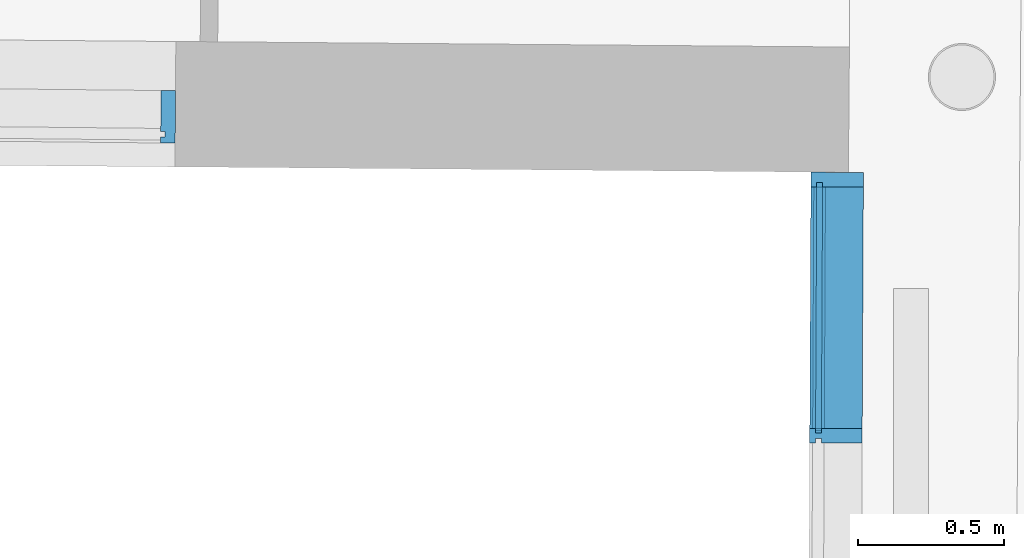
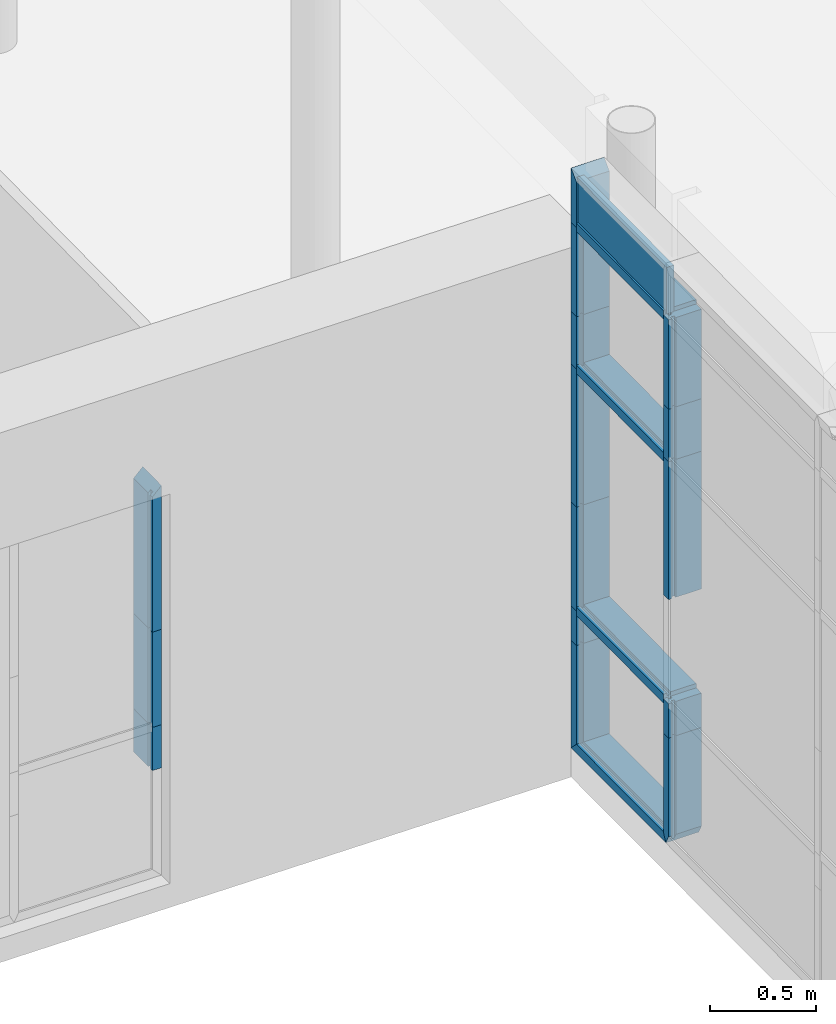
# One storey, part 170 of 196: 20 building element parts, 2 elements without a shape of their own.
"""IFC2X3 building model written with IfcOpenShell, lengths in metres."""

import ifcopenshell
import ifcopenshell.guid

model = None  # the IFC model being written
_history = None  # IfcOwnerHistory: only IFC2X3 demands one
_inside = {}  # id of a spatial element -> (the spatial element, [elements in it])
_under = {}  # id of a project, library or spatial element -> (it, [spatial elements below it])
_declared = {}  # id of a project -> (the project, [libraries it declares])
_typed = {}  # id of a type object -> (the type object, [elements of that type])
_made_of = {}  # id of a material, layer set ... -> (it, [elements and type objects made of it])


def new_model(schema):
    """Start an empty IFC model of exactly this schema.

    Asked for "IFC4X3", IfcOpenShell would pick the latest addendum, in which some entities
    have other attributes; the version numbers below select the first issue.
    IFC2X3 requires an IfcOwnerHistory on every rooted entity: one is made here for all.
    """
    global model, _history
    if schema == "IFC4X3":
        model = ifcopenshell.file(schema_version=(4, 3, 0, 0))
    else:
        model = ifcopenshell.file(schema=schema)
    _inside.clear()
    _under.clear()
    _declared.clear()
    _typed.clear()
    _made_of.clear()
    _history = None
    if model.schema == "IFC2X3":
        org = make("IfcOrganization", Name="unknown")
        user = make(
            "IfcPersonAndOrganization",
            ThePerson=make("IfcPerson", FamilyName="unknown"),
            TheOrganization=org,
        )
        app = make(
            "IfcApplication",
            ApplicationDeveloper=org,
            Version="unknown",
            ApplicationFullName="unknown",
            ApplicationIdentifier="unknown",
        )
        _history = make(
            "IfcOwnerHistory",
            OwningUser=user,
            OwningApplication=app,
            ChangeAction="ADDED",
            CreationDate=0,
        )
    return model


def make(cls, **values):
    """One entity of the class cls with the attributes given. An attribute that is None is left unset."""
    return model.create_entity(
        cls, **{name: value for name, value in values.items() if value is not None}
    )


def entity(cls, *values):
    """Any entity or typed value of the class cls, its attributes in the order of the schema. None: left unset."""
    e = model.create_entity(cls)
    for i, value in enumerate(values):
        if value is not None:
            e[i] = value
    return e


def rooted(cls, **values):
    """An entity with a GlobalId (a new one), such as an element, a storey or a relation."""
    return make(cls, GlobalId=ifcopenshell.guid.new(), OwnerHistory=_history, **values)


def si_unit(unit_type, name, prefix=None):
    """IfcSIUnit, for example si_unit("LENGTHUNIT", "METRE", prefix="MILLI")."""
    return make("IfcSIUnit", UnitType=unit_type, Prefix=prefix, Name=name)


def converted_unit(unit_type, name, factor, base, dimensions=None, offset=None):
    """IfcConversionBasedUnit, such as the inch: factor (a typed value) times the base unit."""
    return make(
        "IfcConversionBasedUnit"
        if offset is None
        else "IfcConversionBasedUnitWithOffset",
        ConversionOffset=offset,
        Dimensions=None
        if dimensions is None
        else entity("IfcDimensionalExponents", *dimensions),
        UnitType=unit_type,
        Name=name,
        ConversionFactor=make(
            "IfcMeasureWithUnit", ValueComponent=factor, UnitComponent=base
        ),
    )


def derived_unit(unit_type, elements):
    """IfcDerivedUnit: a product of units, each with its exponent."""
    return make(
        "IfcDerivedUnit",
        Elements=[
            make("IfcDerivedUnitElement", Unit=unit, Exponent=power)
            for unit, power in elements
        ],
        UnitType=unit_type,
    )


def money_unit(currency):
    """IfcMonetaryUnit."""
    return make("IfcMonetaryUnit", Currency=currency)


def assignment(units):
    """IfcUnitAssignment: the units of a project."""
    return None if units is None else make("IfcUnitAssignment", Units=units)


def point(xyz):
    """IfcCartesianPoint."""
    return None if xyz is None else make("IfcCartesianPoint", Coordinates=xyz)


def direction(xyz):
    """IfcDirection."""
    return None if xyz is None else make("IfcDirection", DirectionRatios=xyz)


def frame(location, z_axis=None, x_axis=None):
    """IfcAxis2Placement3D, a coordinate frame: its origin and axes. An axis left out is left unset."""
    return make(
        "IfcAxis2Placement3D",
        Location=point(location),
        Axis=direction(z_axis),
        RefDirection=direction(x_axis),
    )


def origin_with_axes():
    """The frame at (0, 0, 0) with the z axis (0, 0, 1) and the x axis (1, 0, 0) written out."""
    return frame((0.0, 0.0, 0.0), z_axis=(0.0, 0.0, 1.0), x_axis=(1.0, 0.0, 0.0))


def place(relative_to, where):
    """IfcLocalPlacement: puts the frame where relative to a parent placement (None: the world)."""
    return make(
        "IfcLocalPlacement", PlacementRelTo=relative_to, RelativePlacement=where
    )


def context(
    kind, dimensions, precision=None, world=None, true_north=None, identifier=None
):
    """IfcGeometricRepresentationContext, for example the 3D "Model" context."""
    return make(
        "IfcGeometricRepresentationContext",
        ContextIdentifier=identifier,
        ContextType=kind,
        CoordinateSpaceDimension=dimensions,
        Precision=precision,
        WorldCoordinateSystem=world,
        TrueNorth=true_north,
    )


def subcontext(parent, identifier, kind, view, scale=None):
    """IfcGeometricRepresentationSubContext, for example "Body" below "Model"."""
    return make(
        "IfcGeometricRepresentationSubContext",
        ContextIdentifier=identifier,
        ContextType=kind,
        ParentContext=parent,
        TargetScale=scale,
        TargetView=view,
    )


def project(units=None, contexts=None):
    """IfcProject with its units and contexts."""
    return rooted(
        "IfcProject",
        Name="project",
        RepresentationContexts=contexts,
        UnitsInContext=assignment(units),
    )


def spatial(cls, under=None, at=None, **own):
    """A site, building, storey or space (cls), placed at a placement, below another one or the project."""
    s = rooted(cls, ObjectPlacement=at, **own)
    if under is not None:
        _under.setdefault(under.id(), (under, []))[1].append(s)
    return s


def faces_of(points, faces, orient=None, outer=None):
    """IfcFace entities. A face is a list of loops; a loop is a list of indices into points, from 0.

    orient and outer hold one flag for each loop. By default every Orientation is true, the
    first loop of a face is its IfcFaceOuterBound and the others are IfcFaceBound.
    """
    made = []
    for i, loops in enumerate(faces):
        bounds = []
        for j, loop in enumerate(loops):
            is_outer = j == 0 if outer is None else outer[i][j]
            bounds.append(
                make(
                    "IfcFaceOuterBound" if is_outer else "IfcFaceBound",
                    Bound=make("IfcPolyLoop", Polygon=[points[k] for k in loop]),
                    Orientation=True if orient is None else orient[i][j],
                )
            )
        made.append(make("IfcFace", Bounds=bounds))
    return made


def faceted_brep(points, faces, orient=None, outer=None, voids=None):
    """IfcFacetedBrep: a solid bounded by flat faces; with voids (closed shells), ...WithVoids."""
    shared = [point(p) for p in points]
    hull = make("IfcClosedShell", CfsFaces=faces_of(shared, faces, orient, outer))
    if voids is None:
        return make("IfcFacetedBrep", Outer=hull)
    return make(
        "IfcFacetedBrepWithVoids",
        Outer=hull,
        Voids=[
            make(cls, CfsFaces=faces_of(shared, fs, o, b)) for cls, fs, o, b in voids
        ],
    )


def shape(context_of_items, identifier, shape_type, items):
    """IfcShapeRepresentation: the items that make up one representation, for example the "Body"."""
    return make(
        "IfcShapeRepresentation",
        ContextOfItems=context_of_items,
        RepresentationIdentifier=identifier,
        RepresentationType=shape_type,
        Items=items,
    )


def material(Name=None, Category=None):
    """IfcMaterial."""
    return make("IfcMaterial", Name=Name, Category=Category)


def made_of(thing, what):
    """Note that an element or type object is made of a material, layer set ...; save() writes the relation."""
    if what is not None:
        _made_of.setdefault(what.id(), (what, []))[1].append(thing)
    return thing


def type_object(cls, material=None, **own):
    """A type object (cls), such as IfcWallType, which elements share."""
    return made_of(rooted(cls, **own), material)


def element(
    cls,
    number,
    at=None,
    inside=None,
    cuts=None,
    type_object=None,
    material=None,
    context=None,
    identifier="Body",
    shape_type=None,
    held_by="IfcProductDefinitionShape",
    body=None,
    shapes=None,
    **own,
):
    """One element of the class cls, such as IfcWall. Its Tag is "e" and its number.

    at: its placement. inside: the storey or other place that contains it. cuts: it is an
    opening in that element (IfcRelVoidsElement). A single representation is given by context,
    identifier, shape_type and body (its items); several are given by shapes. held_by: the class
    of the entity that holds the representations. save() writes the other relations.
    """
    e = rooted(cls, Tag="e%d" % number, ObjectPlacement=at, **own)
    if body is not None:
        shapes = [shape(context, identifier, shape_type, body)]
    if shapes is not None:
        e.Representation = make(held_by, Representations=shapes)
    if inside is not None:
        _inside.setdefault(inside.id(), (inside, []))[1].append(e)
    if cuts is not None:
        rooted(
            "IfcRelVoidsElement", RelatingBuildingElement=cuts, RelatedOpeningElement=e
        )
    if type_object is not None:
        _typed.setdefault(type_object.id(), (type_object, []))[1].append(e)
    return made_of(e, material)


def aggregate(whole, parts):
    """IfcRelAggregates: a whole, such as a stair, and the parts it consists of."""
    return rooted("IfcRelAggregates", RelatingObject=whole, RelatedObjects=parts)


def save(model, path):
    """Write the relations noted so far, then the file.

    IfcRelAggregates (storeys below a building ...), IfcRelContainedInSpatialStructure (elements
    in a storey), IfcRelDefinesByType, IfcRelAssociatesMaterial and IfcRelDeclares: one each for
    every whole, place, type object, material and project.
    """
    for whole, parts in _under.values():
        aggregate(whole, parts)
    for where, things in _inside.values():
        rooted(
            "IfcRelContainedInSpatialStructure",
            RelatedElements=things,
            RelatingStructure=where,
        )
    for kind, things in _typed.values():
        rooted("IfcRelDefinesByType", RelatedObjects=things, RelatingType=kind)
    for what, things in _made_of.values():
        rooted("IfcRelAssociatesMaterial", RelatedObjects=things, RelatingMaterial=what)
    for by, libraries in _declared.values():
        rooted("IfcRelDeclares", RelatingContext=by, RelatedDefinitions=libraries)
    model.write(path)


model = new_model("IFC2X3")

# Units and contexts
model_context = context("Model", 3, precision=1e-05, world=origin_with_axes(), true_north=direction((0.0, 1.0)))
body_context = subcontext(model_context, "Body", "Model", "MODEL_VIEW")
ifc_project = project(units=[si_unit("LENGTHUNIT", "METRE"), si_unit("AREAUNIT", "SQUARE_METRE"), si_unit("VOLUMEUNIT", "CUBIC_METRE"), converted_unit("PLANEANGLEUNIT", "DEGREE", entity("IfcPlaneAngleMeasure", 0.0174532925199), si_unit("PLANEANGLEUNIT", "RADIAN"), dimensions=[0, 0, 0, 0, 0, 0, 0]), money_unit("EUR"), converted_unit("TIMEUNIT", "Year", entity("IfcTimeMeasure", 31556926.0), si_unit("TIMEUNIT", "SECOND"), dimensions=[0, 0, 1, 0, 0, 0, 0]), si_unit("MASSUNIT", "GRAM", prefix="KILO"), si_unit("THERMODYNAMICTEMPERATUREUNIT", "DEGREE_CELSIUS"), si_unit("LUMINOUSINTENSITYUNIT", "LUMEN"), si_unit("ENERGYUNIT", "JOULE", prefix="MEGA"), derived_unit("THERMALCONDUCTANCEUNIT", [(si_unit("POWERUNIT", "WATT"), 1), (si_unit("LENGTHUNIT", "METRE"), -1), (si_unit("THERMODYNAMICTEMPERATUREUNIT", "KELVIN"), -1)]), derived_unit("SPECIFICHEATCAPACITYUNIT", [(si_unit("ENERGYUNIT", "JOULE"), 1), (si_unit("MASSUNIT", "GRAM", prefix="KILO"), -1), (si_unit("THERMODYNAMICTEMPERATUREUNIT", "KELVIN"), -1)]), derived_unit("MASSDENSITYUNIT", [(si_unit("MASSUNIT", "GRAM", prefix="KILO"), 1), (si_unit("VOLUMEUNIT", "CUBIC_METRE"), -1)])], contexts=[model_context])

# Site, building, storey
site_placement = place(None, origin_with_axes())
site = spatial("IfcSite", under=ifc_project, at=site_placement, Name="Gelände", CompositionType="ELEMENT")
building_placement = place(site_placement, origin_with_axes())
building = spatial("IfcBuilding", under=site, at=building_placement, Name="Gebäude", CompositionType="ELEMENT")
storey_placement = place(building_placement, frame((0.0, 0.0, -3.0), z_axis=(0.0, 0.0, 1.0), x_axis=(1.0, 0.0, 0.0)))
storey = spatial("IfcBuildingStorey", under=building, at=storey_placement, Name="KELLERGESCHOSS", CompositionType="ELEMENT", Elevation=-3.0)

# Proxy, building element parts
building_element_proxy_type = type_object("IfcBuildingElementProxyType", Name="Fassadentyp", PredefinedType="NOTDEFINED")
proxy_1_placement = place(storey_placement, frame((-5.58247621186, 39.1627608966, 0.57767685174), z_axis=(0.0, 0.0, 1.0), x_axis=(1.0, 0.0, 0.0)))
proxy_1 = element("IfcBuildingElementProxy", 1, at=proxy_1_placement, inside=storey, type_object=building_element_proxy_type, Name="Fassade-002")
ifc_material_1 = material(Name="53_Metall, Aluminium")
building_element_part_1_placement = place(proxy_1_placement, origin_with_axes())
building_element_part_1 = element("IfcBuildingElementPart", 2, at=building_element_part_1_placement, material=ifc_material_1, Name="53_Metall, Aluminium", context=body_context, shape_type="Brep", body=[
    faceted_brep([(2.39099130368, -0.0149234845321, 0.869344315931), (2.3907828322, -0.0349223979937, 0.869344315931), (2.37578364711, -0.03476604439, 0.869344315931), (2.37557517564, -0.0547649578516, 0.869344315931), (2.42557245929, -0.0552861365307, 0.869344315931), (2.42744870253, 0.124704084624, 0.869344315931), (2.37745141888, 0.125225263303, 0.869344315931), (2.37599211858, -0.0147671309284, 0.869344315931), (2.39099130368, -0.0149234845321, 0.619999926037), (2.3907828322, -0.0349223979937, 0.619999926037), (2.37578364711, -0.03476604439, 0.619999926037), (2.37557517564, -0.0547649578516, 0.619999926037), (2.42557245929, -0.0552861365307, 0.619999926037), (2.42744870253, 0.124704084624, 0.619999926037), (2.37745141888, 0.125225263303, 0.619999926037), (2.37599211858, -0.0147671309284, 0.619999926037)], [[[0, 1, 2, 3, 4, 5, 6, 7]], [[1, 0, 8, 9]], [[10, 2, 1, 9]], [[2, 10, 11, 3]], [[12, 4, 3, 11]], [[13, 5, 4, 12]], [[14, 6, 5, 13]], [[15, 7, 6, 14]], [[0, 7, 15, 8]], [[8, 15, 14, 13, 12, 11, 10, 9]]]),
])
building_element_part_2_placement = place(proxy_1_placement, origin_with_axes())
building_element_part_2 = element("IfcBuildingElementPart", 3, at=building_element_part_2_placement, material=ifc_material_1, Name="53_Metall, Aluminium", context=body_context, shape_type="Brep", body=[
    faceted_brep([(2.39099130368, -0.0149234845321, 1.41999992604), (2.3907828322, -0.0349223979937, 1.41999992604), (2.37578364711, -0.03476604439, 1.41999992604), (2.37557517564, -0.0547649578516, 1.41999992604), (2.42557245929, -0.0552861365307, 1.41999992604), (2.42744870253, 0.124704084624, 1.41999992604), (2.37745141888, 0.125225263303, 1.41999992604), (2.37599211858, -0.0147671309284, 1.41999992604), (2.39099130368, -0.0149234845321, 0.869344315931), (2.3907828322, -0.0349223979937, 0.869344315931), (2.37578364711, -0.03476604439, 0.869344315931), (2.37557517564, -0.0547649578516, 0.869344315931), (2.42557245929, -0.0552861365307, 0.869344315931), (2.42744870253, 0.124704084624, 0.869344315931), (2.37745141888, 0.125225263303, 0.869344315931), (2.37599211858, -0.0147671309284, 0.869344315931)], [[[0, 1, 2, 3, 4, 5, 6, 7]], [[1, 0, 8, 9]], [[10, 2, 1, 9]], [[2, 10, 11, 3]], [[12, 4, 3, 11]], [[13, 5, 4, 12]], [[14, 6, 5, 13]], [[15, 7, 6, 14]], [[0, 7, 15, 8]], [[8, 15, 14, 13, 12, 11, 10, 9]]]),
])
building_element_part_3_placement = place(proxy_1_placement, origin_with_axes())
building_element_part_3 = element("IfcBuildingElementPart", 4, at=building_element_part_3_placement, material=ifc_material_1, Name="53_Metall, Aluminium", context=body_context, shape_type="Brep", body=[
    faceted_brep([(2.39099130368, -0.0149234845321, 2.21581791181), (2.3907828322, -0.0349223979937, 2.21581791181), (2.37578364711, -0.03476604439, 2.20081791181), (2.37557517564, -0.0547649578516, 2.20081791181), (2.42557245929, -0.0552861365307, 2.25081791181), (2.42744870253, 0.124704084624, 2.25081791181), (2.37745141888, 0.125225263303, 2.20081791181), (2.37599211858, -0.0147671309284, 2.20081791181), (2.39099130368, -0.0149234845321, 1.41999992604), (2.3907828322, -0.0349223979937, 1.41999992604), (2.37578364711, -0.03476604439, 1.41999992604), (2.37557517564, -0.0547649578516, 1.41999992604), (2.42557245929, -0.0552861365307, 1.41999992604), (2.42744870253, 0.124704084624, 1.41999992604), (2.37745141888, 0.125225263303, 1.41999992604), (2.37599211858, -0.0147671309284, 1.41999992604)], [[[0, 1, 2, 3, 4, 5, 6, 7]], [[1, 0, 8, 9]], [[10, 2, 1, 9]], [[2, 10, 11, 3]], [[12, 4, 3, 11]], [[13, 5, 4, 12]], [[14, 6, 5, 13]], [[15, 7, 6, 14]], [[0, 7, 15, 8]], [[8, 15, 14, 13, 12, 11, 10, 9]]]),
])
aggregate(proxy_1, [building_element_part_1, building_element_part_2, building_element_part_3])

proxy_2_placement = place(storey_placement, frame((-0.953000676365, 37.3811147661, 0.610000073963), z_axis=(0.0, 0.0, 1.0), x_axis=(1.0, 0.0, 0.0)))
proxy_2 = element("IfcBuildingElementProxy", 5, at=proxy_2_placement, inside=storey, type_object=building_element_proxy_type, Name="Fassade-002")
ifc_material_2 = material(Name="45_Glas, Normalglas")
building_element_part_4_placement = place(proxy_2_placement, origin_with_axes())
building_element_part_4 = element("IfcBuildingElementPart", 6, at=building_element_part_4_placement, material=ifc_material_2, Name="45_Glas, Normalglas", context=body_context, shape_type="Brep", body=[
    faceted_brep([(0.0235365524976, 0.732357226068, 3.31500000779), (0.0276849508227, 1.59147349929, 3.31500000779), (-0.0123145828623, 1.59166664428, 3.31500000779), (-0.0164629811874, 0.732550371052, 3.31500000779), (0.0235365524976, 0.732357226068, 3.046495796), (0.0276849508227, 1.59147349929, 3.046495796), (-0.0123145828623, 1.59166664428, 3.046495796), (-0.0164629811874, 0.732550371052, 3.046495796)], [[[0, 1, 2, 3]], [[0, 4, 5, 1]], [[1, 5, 6, 2]], [[3, 2, 6, 7]], [[4, 0, 3, 7]], [[5, 4, 7, 6]]]),
])
building_element_part_5_placement = place(proxy_2_placement, origin_with_axes())
building_element_part_5 = element("IfcBuildingElementPart", 7, at=building_element_part_5_placement, material=ifc_material_1, Name="53_Metall, Aluminium", context=body_context, shape_type="Brep", body=[
    faceted_brep([(0.0176850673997, 1.59152178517, 0.619999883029), (0.0176126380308, 1.57652196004, 0.619999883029), (0.157611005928, 1.5758459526, 0.619999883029), (0.157852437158, 1.6258453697, 0.619999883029), (-0.0221454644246, 1.62671452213, 0.619999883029), (-0.0223868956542, 1.57671510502, 0.619999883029), (-0.00238712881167, 1.57661853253, 0.619999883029), (-0.00231469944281, 1.59161835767, 0.619999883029), (0.0176850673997, 1.59152178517, 0.0349999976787), (0.0176126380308, 1.57652196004, 0.0499999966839), (0.157611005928, 1.5758459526, 0.0499999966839), (0.157852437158, 1.6258453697, 0.0), (-0.0221454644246, 1.62671452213, 0.0), (-0.0223868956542, 1.57671510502, 0.0499999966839), (-0.00238712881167, 1.57661853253, 0.0499999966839), (-0.00231469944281, 1.59161835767, 0.0349999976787)], [[[0, 1, 2, 3, 4, 5, 6, 7]], [[0, 8, 9, 1]], [[9, 10, 2, 1]], [[2, 10, 11, 3]], [[3, 11, 12, 4]], [[4, 12, 13, 5]], [[6, 5, 13, 14]], [[14, 15, 7, 6]], [[7, 15, 8, 0]], [[8, 15, 14, 13, 12, 11, 10, 9]]]),
])
building_element_part_6_placement = place(proxy_2_placement, origin_with_axes())
building_element_part_6 = element("IfcBuildingElementPart", 8, at=building_element_part_6_placement, material=ifc_material_1, Name="53_Metall, Aluminium", context=body_context, shape_type="Brep", body=[
    faceted_brep([(0.0176850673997, 1.59152178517, 1.41999994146), (0.0176126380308, 1.57652196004, 1.41999994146), (0.157611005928, 1.5758459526, 1.41999994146), (0.157852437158, 1.6258453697, 1.41999994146), (-0.0221454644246, 1.62671452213, 1.41999994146), (-0.0223868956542, 1.57671510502, 1.41999994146), (-0.00238712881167, 1.57661853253, 1.41999994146), (-0.00231469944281, 1.59161835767, 1.41999994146), (0.0176850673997, 1.59152178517, 0.818463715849), (0.0176126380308, 1.57652196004, 0.818463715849), (0.157611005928, 1.5758459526, 0.818463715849), (0.157852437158, 1.6258453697, 0.818463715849), (-0.0221454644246, 1.62671452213, 0.818463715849), (-0.0223868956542, 1.57671510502, 0.818463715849), (-0.00238712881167, 1.57661853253, 0.818463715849), (-0.00231469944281, 1.59161835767, 0.818463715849)], [[[0, 1, 2, 3, 4, 5, 6, 7]], [[0, 8, 9, 1]], [[9, 10, 2, 1]], [[10, 11, 3, 2]], [[11, 12, 4, 3]], [[12, 13, 5, 4]], [[6, 5, 13, 14]], [[14, 15, 7, 6]], [[7, 15, 8, 0]], [[8, 15, 14, 13, 12, 11, 10, 9]]]),
])
building_element_part_7_placement = place(proxy_2_placement, origin_with_axes())
building_element_part_7 = element("IfcBuildingElementPart", 9, at=building_element_part_7_placement, material=ifc_material_1, Name="53_Metall, Aluminium", context=body_context, shape_type="Brep", body=[
    faceted_brep([(0.0176850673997, 1.59152178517, 2.5199999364), (0.0176126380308, 1.57652196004, 2.5199999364), (0.157611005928, 1.5758459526, 2.5199999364), (0.157852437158, 1.6258453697, 2.5199999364), (-0.0221454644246, 1.62671452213, 2.5199999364), (-0.0223868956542, 1.57671510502, 2.5199999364), (-0.00238712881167, 1.57661853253, 2.5199999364), (-0.00231469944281, 1.59161835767, 2.5199999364), (0.0176850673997, 1.59152178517, 2.2164877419), (0.0176126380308, 1.57652196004, 2.2164877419), (0.157611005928, 1.5758459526, 2.2164877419), (0.157852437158, 1.6258453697, 2.2164877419), (-0.0221454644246, 1.62671452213, 2.2164877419), (-0.0223868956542, 1.57671510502, 2.2164877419), (-0.00238712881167, 1.57661853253, 2.2164877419), (-0.00231469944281, 1.59161835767, 2.2164877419)], [[[0, 1, 2, 3, 4, 5, 6, 7]], [[0, 8, 9, 1]], [[9, 10, 2, 1]], [[10, 11, 3, 2]], [[11, 12, 4, 3]], [[12, 13, 5, 4]], [[6, 5, 13, 14]], [[14, 15, 7, 6]], [[7, 15, 8, 0]], [[8, 15, 14, 13, 12, 11, 10, 9]]]),
])
building_element_part_8_placement = place(proxy_2_placement, origin_with_axes())
building_element_part_8 = element("IfcBuildingElementPart", 10, at=building_element_part_8_placement, material=ifc_material_1, Name="53_Metall, Aluminium", context=body_context, shape_type="Brep", body=[
    faceted_brep([(0.0176850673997, 1.59152178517, 3.31499997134), (0.0176126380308, 1.57652196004, 3.29999997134), (0.157611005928, 1.5758459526, 3.29999997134), (0.157852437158, 1.6258453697, 3.34999997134), (-0.0221454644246, 1.62671452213, 3.34999997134), (-0.0223868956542, 1.57671510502, 3.29999997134), (-0.00238712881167, 1.57661853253, 3.29999997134), (-0.00231469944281, 1.59161835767, 3.31499997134), (0.0176850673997, 1.59152178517, 3.03649579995), (0.0176126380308, 1.57652196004, 3.03649579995), (0.157611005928, 1.5758459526, 3.03649579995), (0.157852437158, 1.6258453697, 3.03649579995), (-0.0221454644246, 1.62671452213, 3.03649579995), (-0.0223868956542, 1.57671510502, 3.03649579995), (-0.00238712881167, 1.57661853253, 3.03649579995), (-0.00231469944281, 1.59161835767, 3.03649579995)], [[[0, 1, 2, 3, 4, 5, 6, 7]], [[0, 8, 9, 1]], [[9, 10, 2, 1]], [[10, 11, 3, 2]], [[11, 12, 4, 3]], [[12, 13, 5, 4]], [[6, 5, 13, 14]], [[14, 15, 7, 6]], [[7, 15, 8, 0]], [[8, 15, 14, 13, 12, 11, 10, 9]]]),
])
building_element_part_9_placement = place(proxy_2_placement, origin_with_axes())
building_element_part_9 = element("IfcBuildingElementPart", 11, at=building_element_part_9_placement, material=ifc_material_1, Name="53_Metall, Aluminium", context=body_context, shape_type="Brep", body=[
    faceted_brep([(0.0176850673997, 1.59152178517, 3.03649581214), (0.0176126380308, 1.57652196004, 3.03649581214), (0.157611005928, 1.5758459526, 3.03649581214), (0.157852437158, 1.6258453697, 3.03649581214), (-0.0221454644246, 1.62671452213, 3.03649581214), (-0.0223868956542, 1.57671510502, 3.03649581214), (-0.00238712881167, 1.57661853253, 3.03649581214), (-0.00231469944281, 1.59161835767, 3.03649581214), (0.0176850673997, 1.59152178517, 2.51999992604), (0.0176126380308, 1.57652196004, 2.51999992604), (0.157611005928, 1.5758459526, 2.51999992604), (0.157852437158, 1.6258453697, 2.51999992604), (-0.0221454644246, 1.62671452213, 2.51999992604), (-0.0223868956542, 1.57671510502, 2.51999992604), (-0.00238712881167, 1.57661853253, 2.51999992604), (-0.00231469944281, 1.59161835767, 2.51999992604)], [[[0, 1, 2, 3, 4, 5, 6, 7]], [[0, 8, 9, 1]], [[9, 10, 2, 1]], [[10, 11, 3, 2]], [[11, 12, 4, 3]], [[12, 13, 5, 4]], [[6, 5, 13, 14]], [[14, 15, 7, 6]], [[7, 15, 8, 0]], [[8, 15, 14, 13, 12, 11, 10, 9]]]),
])
building_element_part_10_placement = place(proxy_2_placement, origin_with_axes())
building_element_part_10 = element("IfcBuildingElementPart", 12, at=building_element_part_10_placement, material=ifc_material_1, Name="53_Metall, Aluminium", context=body_context, shape_type="Brep", body=[
    faceted_brep([(0.0176850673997, 1.59152178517, 2.21648773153), (0.0176126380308, 1.57652196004, 2.21648773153), (0.157611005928, 1.5758459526, 2.21648773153), (0.157852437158, 1.6258453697, 2.21648773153), (-0.0221454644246, 1.62671452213, 2.21648773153), (-0.0223868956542, 1.57671510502, 2.21648773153), (-0.00238712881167, 1.57661853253, 2.21648773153), (-0.00231469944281, 1.59161835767, 2.21648773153), (0.0176850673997, 1.59152178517, 1.41999992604), (0.0176126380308, 1.57652196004, 1.41999992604), (0.157611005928, 1.5758459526, 1.41999992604), (0.157852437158, 1.6258453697, 1.41999992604), (-0.0221454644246, 1.62671452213, 1.41999992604), (-0.0223868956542, 1.57671510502, 1.41999992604), (-0.00238712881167, 1.57661853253, 1.41999992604), (-0.00231469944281, 1.59161835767, 1.41999992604)], [[[0, 1, 2, 3, 4, 5, 6, 7]], [[0, 8, 9, 1]], [[9, 10, 2, 1]], [[10, 11, 3, 2]], [[11, 12, 4, 3]], [[12, 13, 5, 4]], [[6, 5, 13, 14]], [[14, 15, 7, 6]], [[7, 15, 8, 0]], [[8, 15, 14, 13, 12, 11, 10, 9]]]),
])
building_element_part_11_placement = place(proxy_2_placement, origin_with_axes())
building_element_part_11 = element("IfcBuildingElementPart", 13, at=building_element_part_11_placement, material=ifc_material_1, Name="53_Metall, Aluminium", context=body_context, shape_type="Brep", body=[
    faceted_brep([(0.0176850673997, 1.59152178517, 0.818463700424), (0.0176126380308, 1.57652196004, 0.818463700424), (0.157611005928, 1.5758459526, 0.818463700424), (0.157852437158, 1.6258453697, 0.818463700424), (-0.0221454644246, 1.62671452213, 0.818463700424), (-0.0223868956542, 1.57671510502, 0.818463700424), (-0.00238712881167, 1.57661853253, 0.818463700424), (-0.00231469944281, 1.59161835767, 0.818463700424), (0.0176850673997, 1.59152178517, 0.619999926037), (0.0176126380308, 1.57652196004, 0.619999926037), (0.157611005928, 1.5758459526, 0.619999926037), (0.157852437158, 1.6258453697, 0.619999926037), (-0.0221454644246, 1.62671452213, 0.619999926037), (-0.0223868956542, 1.57671510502, 0.619999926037), (-0.00238712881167, 1.57661853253, 0.619999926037), (-0.00231469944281, 1.59161835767, 0.619999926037)], [[[0, 1, 2, 3, 4, 5, 6, 7]], [[0, 8, 9, 1]], [[9, 10, 2, 1]], [[10, 11, 3, 2]], [[11, 12, 4, 3]], [[12, 13, 5, 4]], [[6, 5, 13, 14]], [[14, 15, 7, 6]], [[7, 15, 8, 0]], [[8, 15, 14, 13, 12, 11, 10, 9]]]),
])
building_element_part_12_placement = place(proxy_2_placement, origin_with_axes())
building_element_part_12 = element("IfcBuildingElementPart", 14, at=building_element_part_12_placement, material=ifc_material_1, Name="53_Metall, Aluminium", context=body_context, shape_type="Brep", body=[
    faceted_brep([(0.0136090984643, 0.7474053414, 3.02649579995), (0.0136090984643, 0.7474053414, 3.01149579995), (0.153607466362, 0.746729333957, 3.01149579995), (0.153607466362, 0.746729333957, 3.06149579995), (0.0136090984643, 0.7474053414, 3.06149579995), (0.0136090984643, 0.7474053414, 3.04649579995), (-0.0063906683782, 0.747501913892, 3.04649579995), (-0.0063906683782, 0.747501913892, 3.06149579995), (-0.0263904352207, 0.747598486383, 3.06149579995), (-0.0263904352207, 0.747598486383, 3.01149579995), (-0.0063906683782, 0.747501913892, 3.01149579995), (-0.0063906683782, 0.747501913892, 3.02649579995), (0.0176126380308, 1.57652196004, 3.02649579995), (0.0176126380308, 1.57652196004, 3.01149579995), (0.157611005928, 1.5758459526, 3.01149579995), (0.157611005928, 1.5758459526, 3.06149579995), (0.0176126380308, 1.57652196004, 3.06149579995), (0.0176126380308, 1.57652196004, 3.04649579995), (-0.00238712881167, 1.57661853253, 3.04649579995), (-0.00238712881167, 1.57661853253, 3.06149579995), (-0.0223868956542, 1.57671510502, 3.06149579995), (-0.0223868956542, 1.57671510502, 3.01149579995), (-0.00238712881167, 1.57661853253, 3.01149579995), (-0.00238712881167, 1.57661853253, 3.02649579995)], [[[0, 1, 2, 3, 4, 5, 6, 7, 8, 9, 10, 11]], [[1, 0, 12, 13]], [[1, 13, 14, 2]], [[2, 14, 15, 3]], [[4, 3, 15, 16]], [[4, 16, 17, 5]], [[5, 17, 18, 6]], [[7, 6, 18, 19]], [[19, 20, 8, 7]], [[8, 20, 21, 9]], [[22, 10, 9, 21]], [[11, 10, 22, 23]], [[0, 11, 23, 12]], [[23, 22, 21, 20, 19, 18, 17, 16, 15, 14, 13, 12]]]),
])
building_element_part_13_placement = place(proxy_2_placement, origin_with_axes())
building_element_part_13 = element("IfcBuildingElementPart", 15, at=building_element_part_13_placement, material=ifc_material_1, Name="53_Metall, Aluminium", context=body_context, shape_type="Brep", body=[
    faceted_brep([(0.01357288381, 0.739905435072, 0.035), (-0.00642688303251, 0.740002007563, 0.035), (-0.00639066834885, 0.747501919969, 0.05), (-0.0263904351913, 0.747598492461, 0.05), (-0.0265111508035, 0.722598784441, 0.0), (0.153486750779, 0.721729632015, 0.0), (0.153607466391, 0.746729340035, 0.05), (0.0136090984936, 0.747405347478, 0.05), (0.0176850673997, 1.59152178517, 0.035), (-0.00231469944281, 1.59161835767, 0.035), (-0.00238712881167, 1.57661853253, 0.05), (-0.0223868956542, 1.57671510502, 0.05), (-0.0221454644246, 1.62671452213, 0.0), (0.157852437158, 1.6258453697, 0.0), (0.157611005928, 1.5758459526, 0.05), (0.0176126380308, 1.57652196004, 0.05)], [[[0, 1, 2, 3, 4, 5, 6, 7]], [[1, 0, 8, 9]], [[10, 2, 1, 9]], [[2, 10, 11, 3]], [[4, 3, 11, 12]], [[5, 4, 12, 13]], [[6, 5, 13, 14]], [[15, 7, 6, 14]], [[0, 7, 15, 8]], [[8, 15, 14, 13, 12, 11, 10, 9]]]),
])
building_element_part_14_placement = place(proxy_2_placement, origin_with_axes())
building_element_part_14 = element("IfcBuildingElementPart", 16, at=building_element_part_14_placement, material=ifc_material_1, Name="53_Metall, Aluminium", context=body_context, shape_type="Brep", body=[
    faceted_brep([(0.0134400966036, 0.712405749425, 3.03649579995), (0.0133676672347, 0.697405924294, 3.03649579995), (0.153366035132, 0.696729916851, 3.03649579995), (0.153607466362, 0.746729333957, 3.03649579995), (0.0136090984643, 0.7474053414, 3.03649579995), (0.0135366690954, 0.732405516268, 3.03649579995), (-0.00646309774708, 0.73250208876, 3.03649579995), (-0.00639066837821, 0.747501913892, 3.03649579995), (-0.0263904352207, 0.747598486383, 3.03649579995), (-0.0266318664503, 0.697599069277, 3.03649579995), (-0.00663209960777, 0.697502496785, 3.03649579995), (-0.0065596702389, 0.712502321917, 3.03649579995), (0.0134400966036, 0.712405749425, 2.51999992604), (0.0133676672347, 0.697405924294, 2.51999992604), (0.153366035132, 0.696729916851, 2.51999992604), (0.153607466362, 0.746729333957, 2.51999992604), (0.0136090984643, 0.7474053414, 2.51999992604), (0.0135366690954, 0.732405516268, 2.51999992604), (-0.00646309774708, 0.73250208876, 2.51999992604), (-0.00639066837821, 0.747501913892, 2.51999992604), (-0.0263904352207, 0.747598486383, 2.51999992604), (-0.0266318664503, 0.697599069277, 2.51999992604), (-0.00663209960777, 0.697502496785, 2.51999992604), (-0.0065596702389, 0.712502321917, 2.51999992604)], [[[0, 1, 2, 3, 4, 5, 6, 7, 8, 9, 10, 11]], [[1, 0, 12, 13]], [[1, 13, 14, 2]], [[3, 2, 14, 15]], [[4, 3, 15, 16]], [[4, 16, 17, 5]], [[5, 17, 18, 6]], [[7, 6, 18, 19]], [[19, 20, 8, 7]], [[9, 8, 20, 21]], [[22, 10, 9, 21]], [[11, 10, 22, 23]], [[0, 11, 23, 12]], [[23, 22, 21, 20, 19, 18, 17, 16, 15, 14, 13, 12]]]),
])
building_element_part_15_placement = place(proxy_2_placement, origin_with_axes())
building_element_part_15 = element("IfcBuildingElementPart", 17, at=building_element_part_15_placement, material=ifc_material_1, Name="53_Metall, Aluminium", context=body_context, shape_type="Brep", body=[
    faceted_brep([(0.0134400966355, 0.712405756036, 0.619999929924), (0.0133676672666, 0.697405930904, 0.619999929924), (0.153366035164, 0.696729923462, 0.619999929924), (0.153607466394, 0.746729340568, 0.619999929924), (0.0136090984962, 0.747405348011, 0.619999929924), (0.0135366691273, 0.732405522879, 0.619999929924), (-0.00646309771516, 0.732502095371, 0.619999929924), (-0.00639066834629, 0.747501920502, 0.619999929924), (-0.0263904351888, 0.747598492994, 0.619999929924), (-0.0266318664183, 0.697599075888, 0.619999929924), (-0.00663209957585, 0.697502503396, 0.619999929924), (-0.00655967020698, 0.712502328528, 0.619999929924), (0.0134400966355, 0.712405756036, 0.02), (0.0133676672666, 0.697405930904, 0.05), (0.153366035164, 0.696729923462, 0.05), (0.153486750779, 0.721729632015, 0.0), (0.153607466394, 0.746729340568, 0.05), (0.0136090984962, 0.747405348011, 0.05), (0.0135366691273, 0.732405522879, 0.02), (-0.00646309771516, 0.732502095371, 0.02), (-0.00639066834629, 0.747501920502, 0.05), (-0.0263904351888, 0.747598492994, 0.05), (-0.0265111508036, 0.722598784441, 0.0), (-0.0266318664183, 0.697599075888, 0.05), (-0.00663209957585, 0.697502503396, 0.05), (-0.00655967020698, 0.712502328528, 0.02)], [[[0, 1, 2, 3, 4, 5, 6, 7, 8, 9, 10, 11]], [[1, 0, 12, 13]], [[1, 13, 14, 2]], [[14, 15, 16, 3, 2]], [[4, 3, 16, 17]], [[4, 17, 18, 5]], [[5, 18, 19, 6]], [[7, 6, 19, 20]], [[20, 21, 8, 7]], [[21, 22, 23, 9, 8]], [[24, 10, 9, 23]], [[11, 10, 24, 25]], [[0, 11, 25, 12]], [[25, 24, 23, 22, 15, 14, 13, 12]], [[21, 20, 19, 18, 17, 16, 15, 22]]]),
])
building_element_part_16_placement = place(proxy_2_placement, origin_with_axes())
building_element_part_16 = element("IfcBuildingElementPart", 18, at=building_element_part_16_placement, material=ifc_material_1, Name="53_Metall, Aluminium", context=body_context, shape_type="Brep", body=[
    faceted_brep([(0.0134400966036, 0.712405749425, 2.51999992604), (0.0133676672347, 0.697405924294, 2.51999992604), (0.153366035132, 0.696729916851, 2.51999992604), (0.153607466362, 0.746729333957, 2.51999992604), (0.0136090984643, 0.7474053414, 2.51999992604), (0.0135366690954, 0.732405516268, 2.51999992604), (-0.00646309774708, 0.73250208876, 2.51999992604), (-0.00639066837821, 0.747501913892, 2.51999992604), (-0.0263904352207, 0.747598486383, 2.51999992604), (-0.0266318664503, 0.697599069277, 2.51999992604), (-0.00663209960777, 0.697502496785, 2.51999992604), (-0.0065596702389, 0.712502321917, 2.51999992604), (0.0134400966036, 0.712405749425, 2.2164877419), (0.0133676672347, 0.697405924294, 2.2164877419), (0.153366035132, 0.696729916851, 2.2164877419), (0.153607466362, 0.746729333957, 2.2164877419), (0.0136090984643, 0.7474053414, 2.2164877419), (0.0135366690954, 0.732405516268, 2.2164877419), (-0.00646309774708, 0.73250208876, 2.2164877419), (-0.00639066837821, 0.747501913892, 2.2164877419), (-0.0263904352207, 0.747598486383, 2.2164877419), (-0.0266318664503, 0.697599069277, 2.2164877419), (-0.00663209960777, 0.697502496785, 2.2164877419), (-0.0065596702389, 0.712502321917, 2.2164877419)], [[[0, 1, 2, 3, 4, 5, 6, 7, 8, 9, 10, 11]], [[1, 0, 12, 13]], [[1, 13, 14, 2]], [[3, 2, 14, 15]], [[4, 3, 15, 16]], [[4, 16, 17, 5]], [[5, 17, 18, 6]], [[7, 6, 18, 19]], [[19, 20, 8, 7]], [[9, 8, 20, 21]], [[22, 10, 9, 21]], [[11, 10, 22, 23]], [[0, 11, 23, 12]], [[23, 22, 21, 20, 19, 18, 17, 16, 15, 14, 13, 12]]]),
])
building_element_part_17_placement = place(proxy_2_placement, origin_with_axes())
building_element_part_17 = element("IfcBuildingElementPart", 19, at=building_element_part_17_placement, material=ifc_material_1, Name="53_Metall, Aluminium", context=body_context, shape_type="Brep", body=[
    faceted_brep([(0.0136090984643, 0.7474053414, 2.2064877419), (0.0136090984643, 0.7474053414, 2.1914877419), (0.153607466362, 0.746729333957, 2.1914877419), (0.153607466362, 0.746729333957, 2.2414877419), (0.0136090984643, 0.7474053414, 2.2414877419), (0.0136090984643, 0.7474053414, 2.2264877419), (-0.0063906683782, 0.747501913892, 2.2264877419), (-0.0063906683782, 0.747501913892, 2.2414877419), (-0.0263904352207, 0.747598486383, 2.2414877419), (-0.0263904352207, 0.747598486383, 2.1914877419), (-0.0063906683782, 0.747501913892, 2.1914877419), (-0.0063906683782, 0.747501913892, 2.2064877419), (0.0176126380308, 1.57652196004, 2.2064877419), (0.0176126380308, 1.57652196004, 2.1914877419), (0.157611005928, 1.5758459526, 2.1914877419), (0.157611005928, 1.5758459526, 2.2414877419), (0.0176126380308, 1.57652196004, 2.2414877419), (0.0176126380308, 1.57652196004, 2.2264877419), (-0.00238712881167, 1.57661853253, 2.2264877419), (-0.00238712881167, 1.57661853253, 2.2414877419), (-0.0223868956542, 1.57671510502, 2.2414877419), (-0.0223868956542, 1.57671510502, 2.1914877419), (-0.00238712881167, 1.57661853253, 2.1914877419), (-0.00238712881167, 1.57661853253, 2.2064877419)], [[[0, 1, 2, 3, 4, 5, 6, 7, 8, 9, 10, 11]], [[1, 0, 12, 13]], [[1, 13, 14, 2]], [[2, 14, 15, 3]], [[4, 3, 15, 16]], [[4, 16, 17, 5]], [[5, 17, 18, 6]], [[7, 6, 18, 19]], [[19, 20, 8, 7]], [[8, 20, 21, 9]], [[22, 10, 9, 21]], [[11, 10, 22, 23]], [[0, 11, 23, 12]], [[23, 22, 21, 20, 19, 18, 17, 16, 15, 14, 13, 12]]]),
])
building_element_part_18_placement = place(proxy_2_placement, origin_with_axes())
building_element_part_18 = element("IfcBuildingElementPart", 20, at=building_element_part_18_placement, material=ifc_material_1, Name="53_Metall, Aluminium", context=body_context, shape_type="Brep", body=[
    faceted_brep([(0.0136090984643, 0.7474053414, 0.808463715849), (0.0136090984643, 0.7474053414, 0.793463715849), (0.153607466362, 0.746729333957, 0.793463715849), (0.153607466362, 0.746729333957, 0.843463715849), (0.0136090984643, 0.7474053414, 0.843463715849), (0.0136090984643, 0.7474053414, 0.828463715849), (-0.0063906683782, 0.747501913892, 0.828463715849), (-0.0063906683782, 0.747501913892, 0.843463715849), (-0.0263904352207, 0.747598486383, 0.843463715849), (-0.0263904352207, 0.747598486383, 0.793463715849), (-0.0063906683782, 0.747501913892, 0.793463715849), (-0.0063906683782, 0.747501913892, 0.808463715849), (0.0176126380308, 1.57652196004, 0.808463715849), (0.0176126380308, 1.57652196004, 0.793463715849), (0.157611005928, 1.5758459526, 0.793463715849), (0.157611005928, 1.5758459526, 0.843463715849), (0.0176126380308, 1.57652196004, 0.843463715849), (0.0176126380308, 1.57652196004, 0.828463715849), (-0.00238712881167, 1.57661853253, 0.828463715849), (-0.00238712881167, 1.57661853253, 0.843463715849), (-0.0223868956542, 1.57671510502, 0.843463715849), (-0.0223868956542, 1.57671510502, 0.793463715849), (-0.00238712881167, 1.57661853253, 0.793463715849), (-0.00238712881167, 1.57661853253, 0.808463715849)], [[[0, 1, 2, 3, 4, 5, 6, 7, 8, 9, 10, 11]], [[1, 0, 12, 13]], [[1, 13, 14, 2]], [[2, 14, 15, 3]], [[4, 3, 15, 16]], [[4, 16, 17, 5]], [[5, 17, 18, 6]], [[7, 6, 18, 19]], [[19, 20, 8, 7]], [[8, 20, 21, 9]], [[22, 10, 9, 21]], [[11, 10, 22, 23]], [[0, 11, 23, 12]], [[23, 22, 21, 20, 19, 18, 17, 16, 15, 14, 13, 12]]]),
])
building_element_part_19_placement = place(proxy_2_placement, origin_with_axes())
building_element_part_19 = element("IfcBuildingElementPart", 21, at=building_element_part_19_placement, material=ifc_material_1, Name="53_Metall, Aluminium", context=body_context, shape_type="Brep", body=[
    faceted_brep([(0.0134400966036, 0.712405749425, 2.2164877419), (0.0133676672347, 0.697405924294, 2.2164877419), (0.153366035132, 0.696729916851, 2.2164877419), (0.153607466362, 0.746729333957, 2.2164877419), (0.0136090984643, 0.7474053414, 2.2164877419), (0.0135366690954, 0.732405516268, 2.2164877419), (-0.00646309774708, 0.73250208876, 2.2164877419), (-0.00639066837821, 0.747501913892, 2.2164877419), (-0.0263904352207, 0.747598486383, 2.2164877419), (-0.0266318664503, 0.697599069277, 2.2164877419), (-0.00663209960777, 0.697502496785, 2.2164877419), (-0.0065596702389, 0.712502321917, 2.2164877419), (0.0134400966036, 0.712405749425, 1.41999992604), (0.0133676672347, 0.697405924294, 1.41999992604), (0.153366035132, 0.696729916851, 1.41999992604), (0.153607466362, 0.746729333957, 1.41999992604), (0.0136090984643, 0.7474053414, 1.41999992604), (0.0135366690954, 0.732405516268, 1.41999992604), (-0.00646309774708, 0.73250208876, 1.41999992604), (-0.00639066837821, 0.747501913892, 1.41999992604), (-0.0263904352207, 0.747598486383, 1.41999992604), (-0.0266318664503, 0.697599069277, 1.41999992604), (-0.00663209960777, 0.697502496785, 1.41999992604), (-0.0065596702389, 0.712502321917, 1.41999992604)], [[[0, 1, 2, 3, 4, 5, 6, 7, 8, 9, 10, 11]], [[1, 0, 12, 13]], [[1, 13, 14, 2]], [[3, 2, 14, 15]], [[4, 3, 15, 16]], [[4, 16, 17, 5]], [[5, 17, 18, 6]], [[7, 6, 18, 19]], [[19, 20, 8, 7]], [[9, 8, 20, 21]], [[22, 10, 9, 21]], [[11, 10, 22, 23]], [[0, 11, 23, 12]], [[23, 22, 21, 20, 19, 18, 17, 16, 15, 14, 13, 12]]]),
])
building_element_part_20_placement = place(proxy_2_placement, origin_with_axes())
building_element_part_20 = element("IfcBuildingElementPart", 22, at=building_element_part_20_placement, material=ifc_material_1, Name="53_Metall, Aluminium", context=body_context, shape_type="Brep", body=[
    faceted_brep([(0.0134400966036, 0.712405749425, 0.818463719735), (0.0133676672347, 0.697405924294, 0.818463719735), (0.153366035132, 0.696729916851, 0.818463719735), (0.153607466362, 0.746729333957, 0.818463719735), (0.0136090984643, 0.7474053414, 0.818463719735), (0.0135366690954, 0.732405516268, 0.818463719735), (-0.00646309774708, 0.73250208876, 0.818463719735), (-0.00639066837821, 0.747501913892, 0.818463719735), (-0.0263904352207, 0.747598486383, 0.818463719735), (-0.0266318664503, 0.697599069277, 0.818463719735), (-0.00663209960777, 0.697502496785, 0.818463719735), (-0.0065596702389, 0.712502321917, 0.818463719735), (0.0134400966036, 0.712405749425, 0.619999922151), (0.0133676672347, 0.697405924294, 0.619999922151), (0.153366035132, 0.696729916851, 0.619999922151), (0.153607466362, 0.746729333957, 0.619999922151), (0.0136090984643, 0.7474053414, 0.619999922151), (0.0135366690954, 0.732405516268, 0.619999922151), (-0.00646309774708, 0.73250208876, 0.619999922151), (-0.00639066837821, 0.747501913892, 0.619999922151), (-0.0263904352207, 0.747598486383, 0.619999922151), (-0.0266318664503, 0.697599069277, 0.619999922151), (-0.00663209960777, 0.697502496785, 0.619999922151), (-0.0065596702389, 0.712502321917, 0.619999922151)], [[[0, 1, 2, 3, 4, 5, 6, 7, 8, 9, 10, 11]], [[1, 0, 12, 13]], [[1, 13, 14, 2]], [[3, 2, 14, 15]], [[4, 3, 15, 16]], [[4, 16, 17, 5]], [[5, 17, 18, 6]], [[7, 6, 18, 19]], [[19, 20, 8, 7]], [[9, 8, 20, 21]], [[22, 10, 9, 21]], [[11, 10, 22, 23]], [[0, 11, 23, 12]], [[23, 22, 21, 20, 19, 18, 17, 16, 15, 14, 13, 12]]]),
])
aggregate(proxy_2, [building_element_part_4, building_element_part_5, building_element_part_6, building_element_part_7, building_element_part_8, building_element_part_9, building_element_part_10, building_element_part_11, building_element_part_12, building_element_part_13, building_element_part_14, building_element_part_15, building_element_part_16, building_element_part_17, building_element_part_18, building_element_part_19, building_element_part_20])

save(model, "model.ifc")
